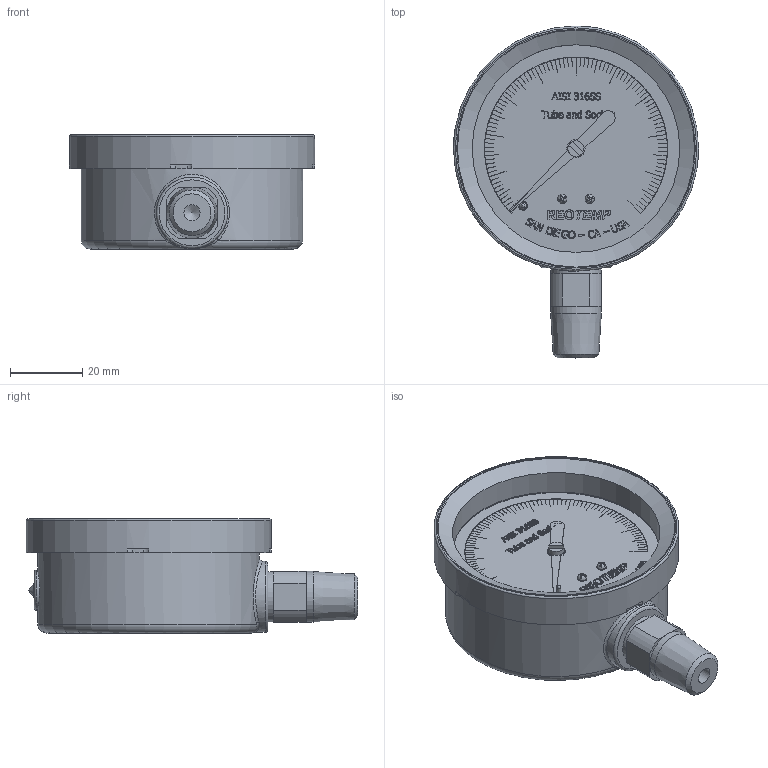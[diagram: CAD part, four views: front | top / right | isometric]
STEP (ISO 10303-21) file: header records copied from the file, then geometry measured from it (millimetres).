
FILE_DESCRIPTION(/* description */ (''),/* implementation_level */ '2;1');
FILE_NAME(/* name */ 'P:\3D Drawings\PR25\PR25-quarter-NPT-Bottom\PR25-quarter-NPT-Bottom-STP\PR25-quarter-NPT-Bottom-Connect-STP.stp',/* time_stamp */ '2015-11-06T15:57:22-08:00',/* author */ ('charles'),/* organization */ (''),/* preprocessor_version */ 'ST-DEVELOPER v15.2',/* originating_system */ 'Autodesk Inventor 2014',/* authorisation */ '');
FILE_SCHEMA (('AUTOMOTIVE_DESIGN { 1 0 10303 214 3 1 1 }'));
Length unit declared in the file: inch
Products named in the file (1): PR25-quarter-NPT-Bottom-Connect
Bounding box: 68.07 x 92.14 x 31.75 mm (x, y, z)
Volume: 95995.6 mm3; surface area: 48298.1 mm2
Topology: 3 solids, 8 shells, 1309 faces, 3526 edges, 2339 vertices
Faces by surface type: plane 876, bspline 320, cylinder 97, cone 7, torus 6, sphere 3
Full cylindrical faces by diameter (mm): 1.016 x2, 2.54 x3, 4.064 x1, 4.445 x1, 4.496 x1, 11.176 x1, 13.97 x1, 14.097 x1, 19.812 x1, 57.658 x2, 61.595 x1, 68.072 x1
Entity records: 44361 total; most frequent: CARTESIAN_POINT 12468, ORIENTED_EDGE 6956, DIRECTION 5081, EDGE_CURVE 3476, LINE 2569, VECTOR 2569, VERTEX_POINT 2320, EDGE_LOOP 1456
